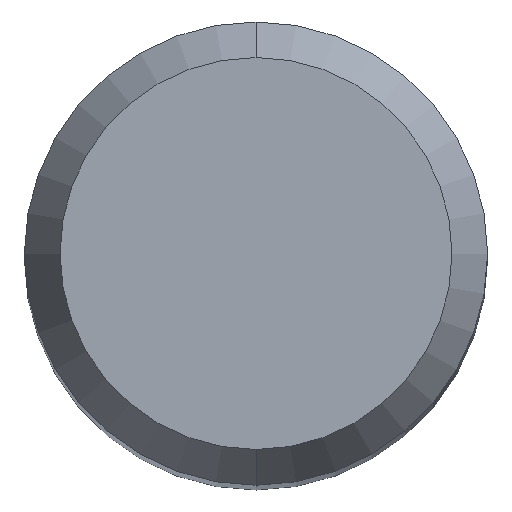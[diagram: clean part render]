
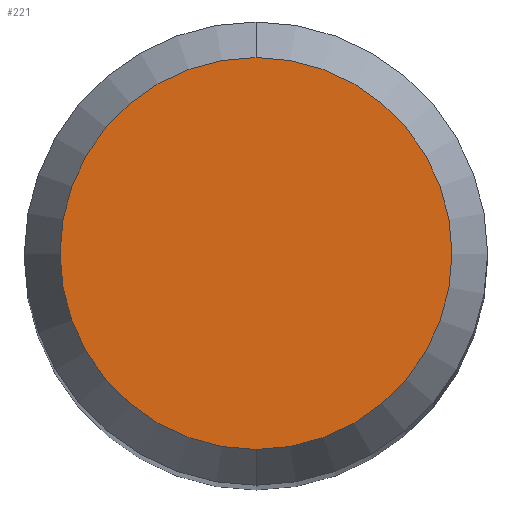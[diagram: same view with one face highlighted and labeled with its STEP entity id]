
A CAD part, top view. The second image highlights one B-rep face of the part: STEP entity #221.
In plain terms, the highlighted planar face has unit normal (0, 0, 1).
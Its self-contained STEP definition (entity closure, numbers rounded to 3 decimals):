
#221=ADVANCED_FACE('',(#516),#517,.T.);
#223=VERTEX_POINT('',#519);
#337=EDGE_CURVE('',#223,#371,#643,.T.);
#339=EDGE_CURVE('',#371,#223,#645,.T.);
#371=VERTEX_POINT('',#683);
#516=FACE_OUTER_BOUND('',#886,.T.);
#517=PLANE('',#887);
#519=CARTESIAN_POINT('',(0.0,2.538,0.0));
#643=CIRCLE('',#1109,2.538);
#645=CIRCLE('',#1112,2.538);
#683=CARTESIAN_POINT('',(0.,-2.538,0.0));
#886=EDGE_LOOP('',(#1429,#1430));
#887=AXIS2_PLACEMENT_3D('',#1431,#1432,#1433);
#1109=AXIS2_PLACEMENT_3D('',#1564,#1565,#1566);
#1112=AXIS2_PLACEMENT_3D('',#1567,#1568,#1569);
#1429=ORIENTED_EDGE('',*,*,#337,.F.);
#1430=ORIENTED_EDGE('',*,*,#339,.F.);
#1431=CARTESIAN_POINT('',(0.0,1.269,0.0));
#1432=DIRECTION('',(-0.0,0.0,1.0));
#1433=DIRECTION('',(0.0,-1.0,0.0));
#1564=CARTESIAN_POINT('',(0.0,0.0,0.0));
#1565=DIRECTION('',(0.0,0.0,-1.0));
#1566=DIRECTION('',(0.0,1.0,0.0));
#1567=CARTESIAN_POINT('',(0.0,0.0,0.0));
#1568=DIRECTION('',(0.0,0.0,-1.0));
#1569=DIRECTION('',(0.0,1.0,0.0));
